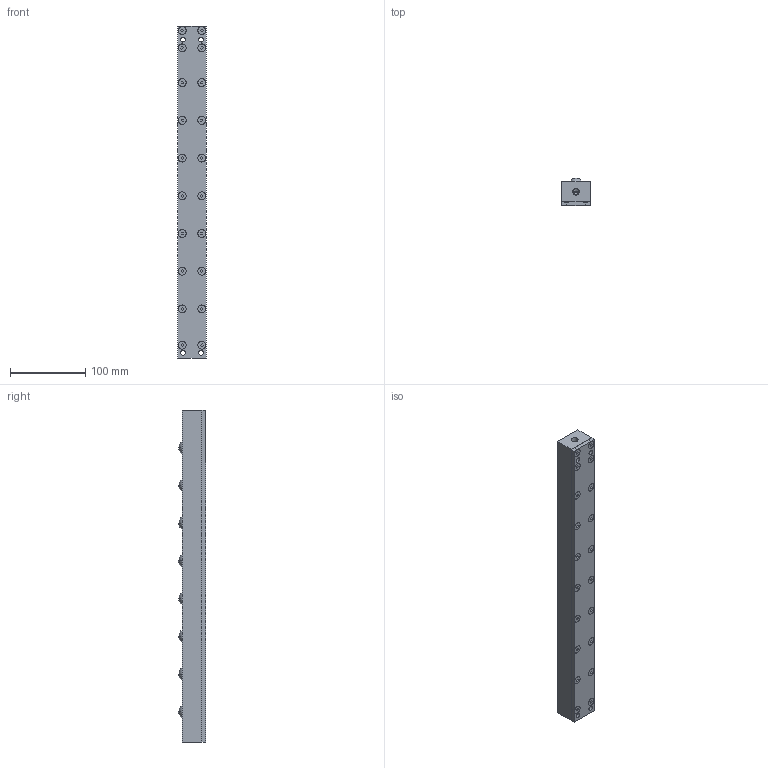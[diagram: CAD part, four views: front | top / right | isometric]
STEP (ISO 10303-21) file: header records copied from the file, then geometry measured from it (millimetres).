
FILE_DESCRIPTION (( 'STEP AP203' ), '1' );
FILE_NAME ('PVL30SL-8-P50.STEP', '2016-01-06T05:39:04', ( '' ), ( '' ), 'SwSTEP 2.0', 'SolidWorks 2013', '' );
FILE_SCHEMA (( 'CONFIG_CONTROL_DESIGN' ));
Length unit declared in the file: millimetre
Products named in the file (1): PVL30SL-8-P50
Bounding box: 38 x 36 x 440 mm (x, y, z)
Volume: 515695.5 mm3; surface area: 145804.5 mm2
Topology: 9 solids, 9 shells, 421 faces, 972 edges, 639 vertices
Faces by surface type: plane 219, cylinder 146, cone 40, sphere 16
Entity records: 12093 total; most frequent: DIRECTION 2178, CARTESIAN_POINT 2019, ORIENTED_EDGE 1916, EDGE_CURVE 958, AXIS2_PLACEMENT_3D 798, VERTEX_POINT 639, LINE 582, VECTOR 582
